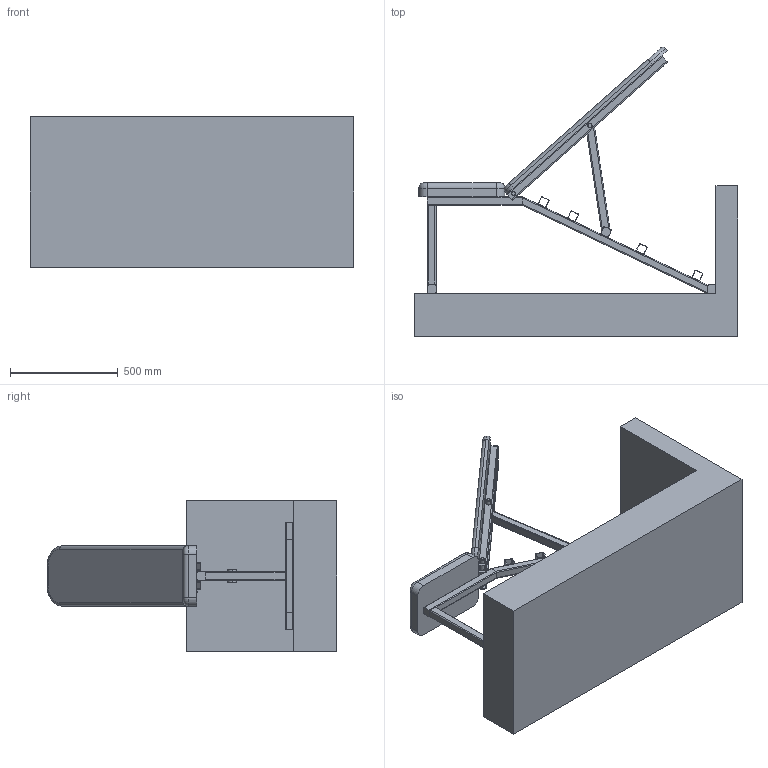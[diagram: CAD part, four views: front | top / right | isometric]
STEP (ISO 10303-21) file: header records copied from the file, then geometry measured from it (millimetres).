
FILE_DESCRIPTION (( 'STEP AP214' ), '1' );
FILE_NAME ('benc sehpasý zeminli.STEP', '2021-03-18T19:13:30', ( '' ), ( '' ), 'SwSTEP 2.0', 'SolidWorks 2019', '' );
FILE_SCHEMA (( 'AUTOMOTIVE_DESIGN' ));
Length unit declared in the file: millimetre
Products named in the file (6): sehpa sabit_Varsay考an; ZeminBenchPress_Varsay考an; hex head structural bolt_din_DIN 7990 - M20 x 150-NN; 輹buk_Varsay考an; benc sehpasý zeminli; sehpa hareketli_Varsay考an
Assembly tree (6 placements, depth 2):
  benc sehpasý zeminli
    sehpa sabit_Varsay考an
    sehpa hareketli_Varsay考an
    hex head structural bolt_din_DIN 7990 - M20 x 150-NN  x2
    輹buk_Varsay考an
    ZeminBenchPress_Varsay考an
Bounding box: 1500 x 1344.54 x 700 mm (x, y, z)
Volume: 265125175 mm3; surface area: 5909098.4 mm2
Topology: 21 solids, 21 shells, 339 faces, 854 edges, 556 vertices
Faces by surface type: plane 165, cylinder 146, cone 16, torus 8, bspline 4
Entity records: 10239 total; most frequent: CARTESIAN_POINT 1823, DIRECTION 1740, ORIENTED_EDGE 1628, EDGE_CURVE 814, AXIS2_PLACEMENT_3D 629, VERTEX_POINT 532, LINE 482, VECTOR 482
